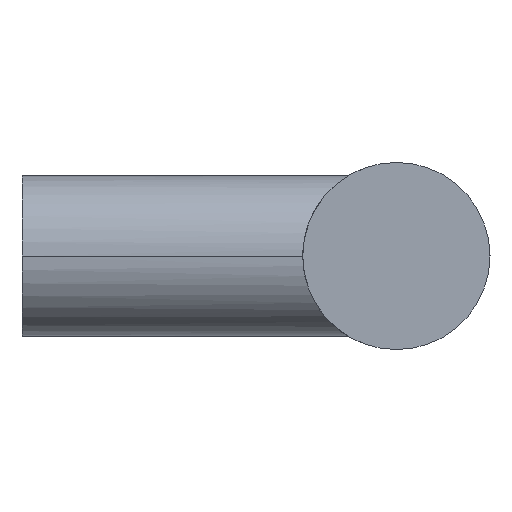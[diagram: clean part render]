
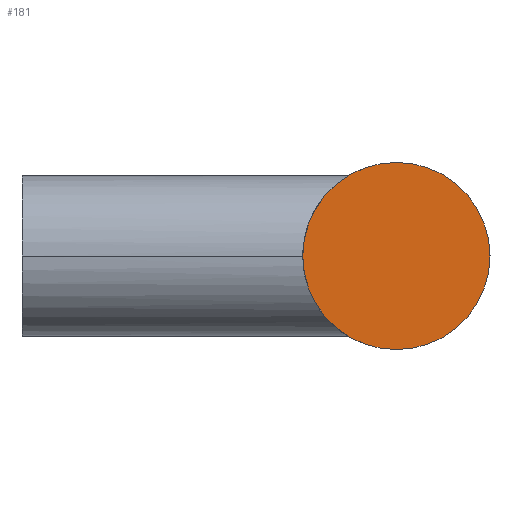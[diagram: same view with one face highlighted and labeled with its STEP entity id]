
A CAD part, left-side view. The second image highlights one B-rep face of the part: STEP entity #181.
In plain terms, the highlighted planar face has unit normal (-1, 0, 0).
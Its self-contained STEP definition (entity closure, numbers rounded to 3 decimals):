
#117 = VERTEX_POINT( '', #277 );
#141 = EDGE_CURVE( '', #231, #117, #306, .T. );
#181 = ADVANCED_FACE( '', ( #354 ), #355, .F. );
#219 = EDGE_CURVE( '', #117, #231, #397, .T. );
#231 = VERTEX_POINT( '', #409 );
#277 = CARTESIAN_POINT( '', ( -30., -28., 7. ) );
#306 = CIRCLE( '', #556, 7. );
#354 = FACE_OUTER_BOUND( '', #612, .T. );
#355 = PLANE( '', #613 );
#397 = CIRCLE( '', #736, 7. );
#409 = CARTESIAN_POINT( '', ( -30., -28., -7. ) );
#556 = AXIS2_PLACEMENT_3D( '', #811, #812, #813 );
#612 = EDGE_LOOP( '', ( #894, #895 ) );
#613 = AXIS2_PLACEMENT_3D( '', #896, #897, #898 );
#736 = AXIS2_PLACEMENT_3D( '', #935, #936, #937 );
#811 = CARTESIAN_POINT( '', ( -30., -28., 0. ) );
#812 = DIRECTION( '', ( 1., 0., 0. ) );
#813 = DIRECTION( '', ( 0., 0., -1. ) );
#894 = ORIENTED_EDGE( '', *, *, #141, .F. );
#895 = ORIENTED_EDGE( '', *, *, #219, .F. );
#896 = CARTESIAN_POINT( '', ( -30., 0., 0. ) );
#897 = DIRECTION( '', ( 1., 0., 0. ) );
#898 = DIRECTION( '', ( 0., 0., -1. ) );
#935 = CARTESIAN_POINT( '', ( -30., -28., 0. ) );
#936 = DIRECTION( '', ( 1., 0., 0. ) );
#937 = DIRECTION( '', ( 0., 0., -1. ) );
